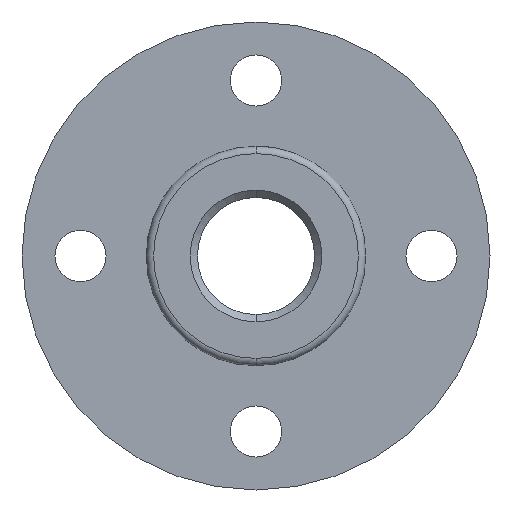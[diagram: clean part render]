
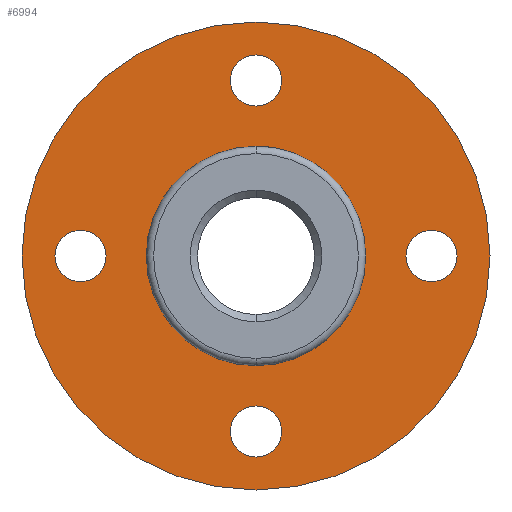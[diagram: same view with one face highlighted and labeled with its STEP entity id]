
A CAD part, front view. The second image highlights one B-rep face of the part: STEP entity #6994.
In plain terms, the highlighted planar face has unit normal (0, -1, 0).
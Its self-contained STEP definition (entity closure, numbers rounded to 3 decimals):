
#31 = DIRECTION ( 'NONE',  ( 0., 1., 0. ) ) ;
#42 = CARTESIAN_POINT ( 'NONE',  ( 0., 0., 0. ) ) ;
#69 = DIRECTION ( 'NONE',  ( 0., 0., 1. ) ) ;
#73 = CARTESIAN_POINT ( 'NONE',  ( 0., 0., -12. ) ) ;
#82 = DIRECTION ( 'NONE',  ( 0., 1., 0. ) ) ;
#101 = FACE_BOUND ( 'NONE', #4049, .T. ) ;
#129 = EDGE_CURVE ( 'NONE', #4210, #807, #482, .T. ) ;
#260 = FACE_BOUND ( 'NONE', #6891, .T. ) ;
#281 = ORIENTED_EDGE ( 'NONE', *, *, #1108, .T. ) ;
#348 = CARTESIAN_POINT ( 'NONE',  ( 0., 0., 10.25 ) ) ;
#466 = VERTEX_POINT ( 'NONE', #5402 ) ;
#482 = CIRCLE ( 'NONE', #2708, 16. ) ;
#526 = DIRECTION ( 'NONE',  ( 0., 1., 0. ) ) ;
#583 = CARTESIAN_POINT ( 'NONE',  ( 0., 0., 0. ) ) ;
#750 = AXIS2_PLACEMENT_3D ( 'NONE', #5695, #31, #1195 ) ;
#774 = EDGE_CURVE ( 'NONE', #5208, #3406, #1349, .T. ) ;
#807 = VERTEX_POINT ( 'NONE', #2542 ) ;
#870 = DIRECTION ( 'NONE',  ( 0., 0., 1. ) ) ;
#950 = DIRECTION ( 'NONE',  ( 0., 0., 1. ) ) ;
#967 = AXIS2_PLACEMENT_3D ( 'NONE', #42, #7165, #4386 ) ;
#997 = VERTEX_POINT ( 'NONE', #2336 ) ;
#1108 = EDGE_CURVE ( 'NONE', #6163, #5288, #2681, .T. ) ;
#1162 = EDGE_CURVE ( 'NONE', #5041, #466, #7079, .T. ) ;
#1195 = DIRECTION ( 'NONE',  ( 0., 0., 1. ) ) ;
#1349 = CIRCLE ( 'NONE', #2196, 1.75 ) ;
#1409 = DIRECTION ( 'NONE',  ( 0., 1., 0. ) ) ;
#1460 = CARTESIAN_POINT ( 'NONE',  ( 12., 0., 1.75 ) ) ;
#1574 = DIRECTION ( 'NONE',  ( 0., 1., 0. ) ) ;
#1630 = EDGE_CURVE ( 'NONE', #3406, #5208, #7263, .T. ) ;
#1789 = EDGE_LOOP ( 'NONE', ( #2478, #4939 ) ) ;
#1837 = ORIENTED_EDGE ( 'NONE', *, *, #774, .T. ) ;
#1869 = AXIS2_PLACEMENT_3D ( 'NONE', #5267, #4147, #4683 ) ;
#2021 = CARTESIAN_POINT ( 'NONE',  ( 0., 0., -7.5 ) ) ;
#2172 = AXIS2_PLACEMENT_3D ( 'NONE', #3408, #6833, #69 ) ;
#2196 = AXIS2_PLACEMENT_3D ( 'NONE', #3634, #1409, #870 ) ;
#2225 = AXIS2_PLACEMENT_3D ( 'NONE', #3989, #82, #4532 ) ;
#2300 = DIRECTION ( 'NONE',  ( 0., 0., 1. ) ) ;
#2302 = ORIENTED_EDGE ( 'NONE', *, *, #1162, .T. ) ;
#2336 = CARTESIAN_POINT ( 'NONE',  ( 0., 0., 7.5 ) ) ;
#2339 = CIRCLE ( 'NONE', #2225, 1.75 ) ;
#2478 = ORIENTED_EDGE ( 'NONE', *, *, #6625, .T. ) ;
#2485 = DIRECTION ( 'NONE',  ( 0., 1., 0. ) ) ;
#2542 = CARTESIAN_POINT ( 'NONE',  ( 0., 0., 16. ) ) ;
#2615 = CARTESIAN_POINT ( 'NONE',  ( 0., 0., -16. ) ) ;
#2634 = FACE_BOUND ( 'NONE', #1789, .T. ) ;
#2681 = CIRCLE ( 'NONE', #3643, 1.75 ) ;
#2708 = AXIS2_PLACEMENT_3D ( 'NONE', #583, #5667, #2300 ) ;
#2737 = DIRECTION ( 'NONE',  ( 0., 0., 1. ) ) ;
#2948 = EDGE_CURVE ( 'NONE', #6723, #6869, #5056, .T. ) ;
#3187 = CARTESIAN_POINT ( 'NONE',  ( -12., 0., -1.75 ) ) ;
#3369 = CARTESIAN_POINT ( 'NONE',  ( 12., 0., 0. ) ) ;
#3376 = AXIS2_PLACEMENT_3D ( 'NONE', #5871, #2485, #4133 ) ;
#3406 = VERTEX_POINT ( 'NONE', #5592 ) ;
#3408 = CARTESIAN_POINT ( 'NONE',  ( -12., 0., 0. ) ) ;
#3411 = CARTESIAN_POINT ( 'NONE',  ( 0., 0., -10.25 ) ) ;
#3434 = EDGE_LOOP ( 'NONE', ( #6086, #7145 ) ) ;
#3467 = AXIS2_PLACEMENT_3D ( 'NONE', #4311, #1574, #950 ) ;
#3634 = CARTESIAN_POINT ( 'NONE',  ( -12., 0., 0. ) ) ;
#3643 = AXIS2_PLACEMENT_3D ( 'NONE', #3369, #526, #2737 ) ;
#3730 = ORIENTED_EDGE ( 'NONE', *, *, #6519, .T. ) ;
#3887 = CARTESIAN_POINT ( 'NONE',  ( 12., 0., -1.75 ) ) ;
#3965 = EDGE_CURVE ( 'NONE', #6132, #997, #7269, .T. ) ;
#3975 = DIRECTION ( 'NONE',  ( 0., 1., 0. ) ) ;
#3977 = EDGE_CURVE ( 'NONE', #6869, #6723, #2339, .T. ) ;
#3989 = CARTESIAN_POINT ( 'NONE',  ( 0., 0., 12. ) ) ;
#4049 = EDGE_LOOP ( 'NONE', ( #281, #4580 ) ) ;
#4133 = DIRECTION ( 'NONE',  ( 0., 0., 1. ) ) ;
#4147 = DIRECTION ( 'NONE',  ( 0., 1., 0. ) ) ;
#4210 = VERTEX_POINT ( 'NONE', #2615 ) ;
#4311 = CARTESIAN_POINT ( 'NONE',  ( 12., 0., 0. ) ) ;
#4386 = DIRECTION ( 'NONE',  ( 0., 0., 1. ) ) ;
#4532 = DIRECTION ( 'NONE',  ( 0., 0., 1. ) ) ;
#4580 = ORIENTED_EDGE ( 'NONE', *, *, #6774, .T. ) ;
#4683 = DIRECTION ( 'NONE',  ( 0., 0., 1. ) ) ;
#4694 = DIRECTION ( 'NONE',  ( 0., 0., 1. ) ) ;
#4851 = EDGE_LOOP ( 'NONE', ( #7067, #1837 ) ) ;
#4939 = ORIENTED_EDGE ( 'NONE', *, *, #3965, .T. ) ;
#5041 = VERTEX_POINT ( 'NONE', #3411 ) ;
#5056 = CIRCLE ( 'NONE', #750, 1.75 ) ;
#5110 = DIRECTION ( 'NONE',  ( 0., 0., 1. ) ) ;
#5208 = VERTEX_POINT ( 'NONE', #3187 ) ;
#5210 = EDGE_LOOP ( 'NONE', ( #6809, #5297 ) ) ;
#5267 = CARTESIAN_POINT ( 'NONE',  ( 0., 0., 0. ) ) ;
#5288 = VERTEX_POINT ( 'NONE', #3887 ) ;
#5297 = ORIENTED_EDGE ( 'NONE', *, *, #5524, .F. ) ;
#5344 = FACE_BOUND ( 'NONE', #3434, .T. ) ;
#5402 = CARTESIAN_POINT ( 'NONE',  ( 0., 0., -13.75 ) ) ;
#5524 = EDGE_CURVE ( 'NONE', #807, #4210, #6173, .T. ) ;
#5538 = FACE_OUTER_BOUND ( 'NONE', #5210, .T. ) ;
#5592 = CARTESIAN_POINT ( 'NONE',  ( -12., 0., 1.75 ) ) ;
#5606 = DIRECTION ( 'NONE',  ( 0., 1., 0. ) ) ;
#5667 = DIRECTION ( 'NONE',  ( 0., 1., 0. ) ) ;
#5695 = CARTESIAN_POINT ( 'NONE',  ( 0., 0., 12. ) ) ;
#5871 = CARTESIAN_POINT ( 'NONE',  ( 0., 0., 0. ) ) ;
#5881 = CIRCLE ( 'NONE', #3376, 7.5 ) ;
#5892 = CARTESIAN_POINT ( 'NONE',  ( 0., 0., 13.75 ) ) ;
#6065 = AXIS2_PLACEMENT_3D ( 'NONE', #6446, #6955, #4694 ) ;
#6076 = FACE_BOUND ( 'NONE', #4851, .T. ) ;
#6086 = ORIENTED_EDGE ( 'NONE', *, *, #2948, .T. ) ;
#6132 = VERTEX_POINT ( 'NONE', #2021 ) ;
#6163 = VERTEX_POINT ( 'NONE', #1460 ) ;
#6173 = CIRCLE ( 'NONE', #1869, 16. ) ;
#6247 = DIRECTION ( 'NONE',  ( 0., 0., 1. ) ) ;
#6446 = CARTESIAN_POINT ( 'NONE',  ( 0., 0., -12. ) ) ;
#6500 = AXIS2_PLACEMENT_3D ( 'NONE', #6772, #5606, #6247 ) ;
#6519 = EDGE_CURVE ( 'NONE', #466, #5041, #7126, .T. ) ;
#6613 = PLANE ( 'NONE',  #967 ) ;
#6625 = EDGE_CURVE ( 'NONE', #997, #6132, #5881, .T. ) ;
#6723 = VERTEX_POINT ( 'NONE', #5892 ) ;
#6772 = CARTESIAN_POINT ( 'NONE',  ( 0., 0., 0. ) ) ;
#6774 = EDGE_CURVE ( 'NONE', #5288, #6163, #7223, .T. ) ;
#6809 = ORIENTED_EDGE ( 'NONE', *, *, #129, .F. ) ;
#6833 = DIRECTION ( 'NONE',  ( 0., 1., 0. ) ) ;
#6869 = VERTEX_POINT ( 'NONE', #348 ) ;
#6891 = EDGE_LOOP ( 'NONE', ( #2302, #3730 ) ) ;
#6955 = DIRECTION ( 'NONE',  ( 0., 1., 0. ) ) ;
#6972 = AXIS2_PLACEMENT_3D ( 'NONE', #73, #3975, #5110 ) ;
#6994 = ADVANCED_FACE ( 'NONE', ( #2634, #260, #101, #5344, #6076, #5538 ), #6613, .F. ) ;
#7067 = ORIENTED_EDGE ( 'NONE', *, *, #1630, .T. ) ;
#7079 = CIRCLE ( 'NONE', #6972, 1.75 ) ;
#7126 = CIRCLE ( 'NONE', #6065, 1.75 ) ;
#7145 = ORIENTED_EDGE ( 'NONE', *, *, #3977, .T. ) ;
#7165 = DIRECTION ( 'NONE',  ( 0., 1., 0. ) ) ;
#7223 = CIRCLE ( 'NONE', #3467, 1.75 ) ;
#7263 = CIRCLE ( 'NONE', #2172, 1.75 ) ;
#7269 = CIRCLE ( 'NONE', #6500, 7.5 ) ;
